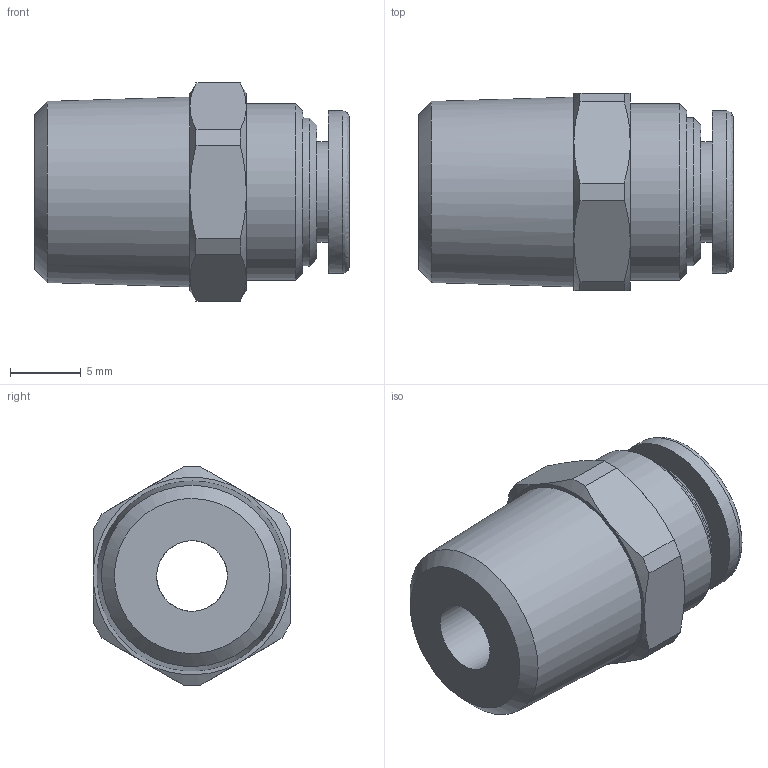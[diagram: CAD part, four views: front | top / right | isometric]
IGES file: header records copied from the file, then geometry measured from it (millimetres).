
Global section: file name: [06] FS6-02M FS6-02MW; native system: Autodesk Inventor 2014; preprocessor: unknown; author: kazuhiro.t; date: 20130806.164628; units: millimetre
Bounding box: 22.3 x 14 x 15.45 mm (x, y, z)
Volume: 2354.1 mm3; surface area: 1643.7 mm2
Topology: 1 solids, 1 shells, 43 faces, 93 edges, 58 vertices
Faces by surface type: bspline 43
